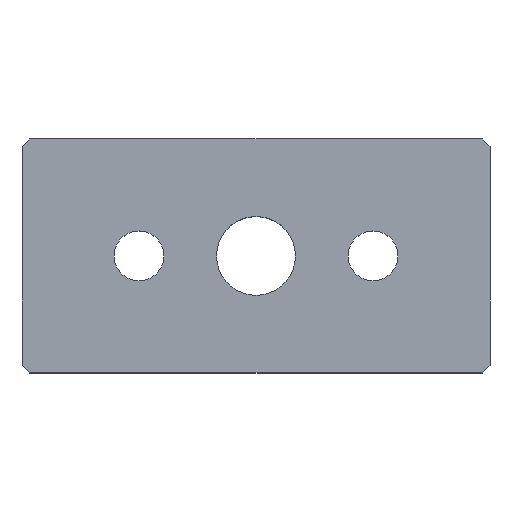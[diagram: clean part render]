
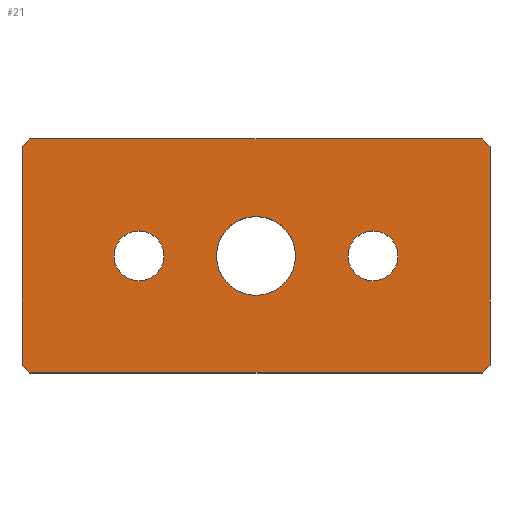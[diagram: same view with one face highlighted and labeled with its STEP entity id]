
A CAD part, top view. The second image highlights one B-rep face of the part: STEP entity #21.
In plain terms, the highlighted planar face has unit normal (0, 0, 1).
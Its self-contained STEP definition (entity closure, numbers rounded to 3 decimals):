
#21 = ADVANCED_FACE ( 'NONE', ( #551, #545, #548, #546 ), #128, .T. ) ;
#27 = DIRECTION ( 'NONE',  ( -0.707, 0.707, 0. ) ) ;
#28 = CARTESIAN_POINT ( 'NONE',  ( 22., 22., 12. ) ) ;
#29 = CARTESIAN_POINT ( 'NONE',  ( -22., 22., 12. ) ) ;
#31 = DIRECTION ( 'NONE',  ( 0.707, 0.707, 0. ) ) ;
#33 = CARTESIAN_POINT ( 'NONE',  ( 22., -22., 12. ) ) ;
#34 = DIRECTION ( 'NONE',  ( 1., 0., 0. ) ) ;
#37 = DIRECTION ( 'NONE',  ( 0., 0., 1. ) ) ;
#38 = CARTESIAN_POINT ( 'NONE',  ( 0., 0., 12. ) ) ;
#39 = CARTESIAN_POINT ( 'NONE',  ( 15., 0., 12. ) ) ;
#40 = DIRECTION ( 'NONE',  ( -1., 0., 0. ) ) ;
#41 = DIRECTION ( 'NONE',  ( 0., 0., -1. ) ) ;
#42 = DIRECTION ( 'NONE',  ( 0.707, -0.707, 0. ) ) ;
#43 = CARTESIAN_POINT ( 'NONE',  ( -22., -22., 12. ) ) ;
#44 = DIRECTION ( 'NONE',  ( 0., 0., -1. ) ) ;
#46 = CARTESIAN_POINT ( 'NONE',  ( -15., 0., 12. ) ) ;
#51 = DIRECTION ( 'NONE',  ( -1., 0., 0. ) ) ;
#52 = CARTESIAN_POINT ( 'NONE',  ( 30., 15., 12. ) ) ;
#54 = DIRECTION ( 'NONE',  ( 0., 1., 0. ) ) ;
#55 = DIRECTION ( 'NONE',  ( -1., 0., 0. ) ) ;
#57 = CARTESIAN_POINT ( 'NONE',  ( 30., -15., 12. ) ) ;
#66 = DIRECTION ( 'NONE',  ( 1., 0., 0. ) ) ;
#67 = CARTESIAN_POINT ( 'NONE',  ( -30., -15., 12. ) ) ;
#68 = CARTESIAN_POINT ( 'NONE',  ( -30., 15., 12. ) ) ;
#71 = DIRECTION ( 'NONE',  ( 0., -1., 0. ) ) ;
#76 = DIRECTION ( 'NONE',  ( 1., 0., 0. ) ) ;
#77 = DIRECTION ( 'NONE',  ( 0., 0., 1. ) ) ;
#80 = CARTESIAN_POINT ( 'NONE',  ( 0., 0., 12. ) ) ;
#102 = DIRECTION ( 'NONE',  ( 0., 0., -1. ) ) ;
#104 = DIRECTION ( 'NONE',  ( -1., 0., 0. ) ) ;
#105 = CARTESIAN_POINT ( 'NONE',  ( -15., 0., 12. ) ) ;
#107 = DIRECTION ( 'NONE',  ( -1., 0., 0. ) ) ;
#112 = DIRECTION ( 'NONE',  ( 0., 0., -1. ) ) ;
#113 = CARTESIAN_POINT ( 'NONE',  ( 15., 0., 12. ) ) ;
#120 = DIRECTION ( 'NONE',  ( 1., 0., 0. ) ) ;
#128 = PLANE ( 'NONE',  #308 ) ;
#129 = CARTESIAN_POINT ( 'NONE',  ( 0., 0., 12. ) ) ;
#138 = DIRECTION ( 'NONE',  ( 0., 0., 1. ) ) ;
#184 = CARTESIAN_POINT ( 'NONE',  ( 29., 15., 12. ) ) ;
#190 = CARTESIAN_POINT ( 'NONE',  ( 30., -14., 12. ) ) ;
#191 = CARTESIAN_POINT ( 'NONE',  ( -29., -15., 12. ) ) ;
#192 = CARTESIAN_POINT ( 'NONE',  ( 29., -15., 12. ) ) ;
#194 = CARTESIAN_POINT ( 'NONE',  ( 30., 14., 12. ) ) ;
#200 = CARTESIAN_POINT ( 'NONE',  ( -29., 15., 12. ) ) ;
#203 = CARTESIAN_POINT ( 'NONE',  ( 18.2, 0., 12. ) ) ;
#204 = CARTESIAN_POINT ( 'NONE',  ( -18.2, 0., 12. ) ) ;
#207 = CARTESIAN_POINT ( 'NONE',  ( -30., 14., 12. ) ) ;
#208 = CARTESIAN_POINT ( 'NONE',  ( -5.053, 0., 12. ) ) ;
#209 = CARTESIAN_POINT ( 'NONE',  ( -30., -14., 12. ) ) ;
#213 = CARTESIAN_POINT ( 'NONE',  ( 11.8, 0., 12. ) ) ;
#219 = CARTESIAN_POINT ( 'NONE',  ( 5.053, 0., 12. ) ) ;
#228 = CARTESIAN_POINT ( 'NONE',  ( -11.8, 0., 12. ) ) ;
#291 = DIRECTION ( 'NONE',  ( -0.707, -0.707, 0. ) ) ;
#297 = AXIS2_PLACEMENT_3D ( 'NONE', #80, #77, #76 ) ;
#303 = AXIS2_PLACEMENT_3D ( 'NONE', #105, #102, #104 ) ;
#305 = AXIS2_PLACEMENT_3D ( 'NONE', #113, #112, #107 ) ;
#308 = AXIS2_PLACEMENT_3D ( 'NONE', #129, #138, #120 ) ;
#328 = EDGE_CURVE ( 'NONE', #601, #592, #543, .T. ) ;
#332 = AXIS2_PLACEMENT_3D ( 'NONE', #39, #41, #40 ) ;
#333 = EDGE_CURVE ( 'NONE', #587, #600, #537, .T. ) ;
#350 = EDGE_CURVE ( 'NONE', #596, #584, #522, .T. ) ;
#354 = EDGE_CURVE ( 'NONE', #597, #595, #514, .T. ) ;
#356 = EDGE_CURVE ( 'NONE', #609, #608, #510, .T. ) ;
#362 = EDGE_CURVE ( 'NONE', #610, #606, #498, .T. ) ;
#364 = EDGE_CURVE ( 'NONE', #613, #602, #494, .T. ) ;
#368 = AXIS2_PLACEMENT_3D ( 'NONE', #46, #44, #55 ) ;
#369 = EDGE_CURVE ( 'NONE', #600, #587, #486, .T. ) ;
#370 = EDGE_CURVE ( 'NONE', #592, #601, #484, .T. ) ;
#371 = EDGE_CURVE ( 'NONE', #584, #596, #483, .T. ) ;
#372 = EDGE_CURVE ( 'NONE', #595, #609, #482, .T. ) ;
#373 = EDGE_CURVE ( 'NONE', #608, #610, #481, .T. ) ;
#374 = EDGE_CURVE ( 'NONE', #606, #613, #479, .T. ) ;
#375 = EDGE_CURVE ( 'NONE', #602, #597, #477, .T. ) ;
#388 = AXIS2_PLACEMENT_3D ( 'NONE', #38, #37, #34 ) ;
#415 = ORIENTED_EDGE ( 'NONE', *, *, #328, .T. ) ;
#474 = VECTOR ( 'NONE', #291, 1000. ) ;
#476 = VECTOR ( 'NONE', #27, 1000. ) ;
#477 = LINE ( 'NONE', #29, #474 ) ;
#478 = VECTOR ( 'NONE', #31, 1000. ) ;
#479 = LINE ( 'NONE', #28, #476 ) ;
#480 = VECTOR ( 'NONE', #42, 1000. ) ;
#481 = LINE ( 'NONE', #33, #478 ) ;
#482 = LINE ( 'NONE', #43, #480 ) ;
#483 = CIRCLE ( 'NONE', #388, 5.053 ) ;
#484 = CIRCLE ( 'NONE', #332, 3.2 ) ;
#486 = CIRCLE ( 'NONE', #368, 3.2 ) ;
#491 = VECTOR ( 'NONE', #51, 1000. ) ;
#494 = LINE ( 'NONE', #52, #491 ) ;
#495 = VECTOR ( 'NONE', #54, 1000. ) ;
#498 = LINE ( 'NONE', #57, #495 ) ;
#507 = VECTOR ( 'NONE', #66, 1000. ) ;
#510 = LINE ( 'NONE', #67, #507 ) ;
#511 = VECTOR ( 'NONE', #71, 1000. ) ;
#514 = LINE ( 'NONE', #68, #511 ) ;
#522 = CIRCLE ( 'NONE', #297, 5.053 ) ;
#537 = CIRCLE ( 'NONE', #303, 3.2 ) ;
#543 = CIRCLE ( 'NONE', #305, 3.2 ) ;
#545 = FACE_BOUND ( 'NONE', #636, .T. ) ;
#546 = FACE_OUTER_BOUND ( 'NONE', #647, .T. ) ;
#548 = FACE_BOUND ( 'NONE', #621, .T. ) ;
#551 = FACE_BOUND ( 'NONE', #634, .T. ) ;
#584 = VERTEX_POINT ( 'NONE', #219 ) ;
#587 = VERTEX_POINT ( 'NONE', #228 ) ;
#592 = VERTEX_POINT ( 'NONE', #213 ) ;
#595 = VERTEX_POINT ( 'NONE', #209 ) ;
#596 = VERTEX_POINT ( 'NONE', #208 ) ;
#597 = VERTEX_POINT ( 'NONE', #207 ) ;
#600 = VERTEX_POINT ( 'NONE', #204 ) ;
#601 = VERTEX_POINT ( 'NONE', #203 ) ;
#602 = VERTEX_POINT ( 'NONE', #200 ) ;
#606 = VERTEX_POINT ( 'NONE', #194 ) ;
#608 = VERTEX_POINT ( 'NONE', #192 ) ;
#609 = VERTEX_POINT ( 'NONE', #191 ) ;
#610 = VERTEX_POINT ( 'NONE', #190 ) ;
#613 = VERTEX_POINT ( 'NONE', #184 ) ;
#621 = EDGE_LOOP ( 'NONE', ( #735, #718 ) ) ;
#634 = EDGE_LOOP ( 'NONE', ( #716, #729 ) ) ;
#636 = EDGE_LOOP ( 'NONE', ( #717, #415 ) ) ;
#647 = EDGE_LOOP ( 'NONE', ( #747, #653, #656, #657, #658, #659, #660, #661 ) ) ;
#653 = ORIENTED_EDGE ( 'NONE', *, *, #372, .T. ) ;
#656 = ORIENTED_EDGE ( 'NONE', *, *, #356, .T. ) ;
#657 = ORIENTED_EDGE ( 'NONE', *, *, #373, .T. ) ;
#658 = ORIENTED_EDGE ( 'NONE', *, *, #362, .T. ) ;
#659 = ORIENTED_EDGE ( 'NONE', *, *, #374, .T. ) ;
#660 = ORIENTED_EDGE ( 'NONE', *, *, #364, .T. ) ;
#661 = ORIENTED_EDGE ( 'NONE', *, *, #375, .T. ) ;
#716 = ORIENTED_EDGE ( 'NONE', *, *, #369, .T. ) ;
#717 = ORIENTED_EDGE ( 'NONE', *, *, #370, .T. ) ;
#718 = ORIENTED_EDGE ( 'NONE', *, *, #350, .F. ) ;
#729 = ORIENTED_EDGE ( 'NONE', *, *, #333, .T. ) ;
#735 = ORIENTED_EDGE ( 'NONE', *, *, #371, .F. ) ;
#747 = ORIENTED_EDGE ( 'NONE', *, *, #354, .T. ) ;
